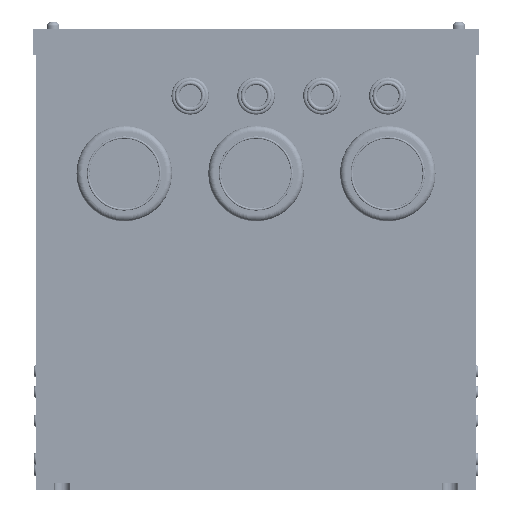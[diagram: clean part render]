
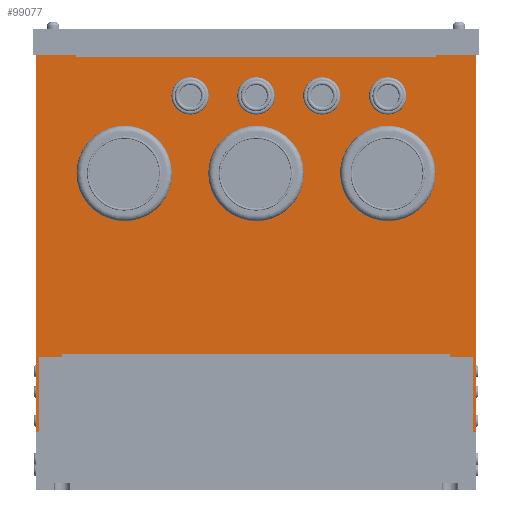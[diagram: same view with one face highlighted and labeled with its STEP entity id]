
A CAD part, front view. The second image highlights one B-rep face of the part: STEP entity #99077.
In plain terms, the highlighted planar face has unit normal (0, -1, 0).
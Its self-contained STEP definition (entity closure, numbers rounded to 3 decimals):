
#23610=DIRECTION('',(-1.,0.,0.));
#23611=VECTOR('',#23610,341.);
#23612=CARTESIAN_POINT('',(343.,2.,261.7));
#23613=LINE('',#23612,#23611);
#23714=DIRECTION('',(0.,0.,-1.));
#23715=VECTOR('',#23714,2.3);
#23716=CARTESIAN_POINT('',(22.5,2.,16.3));
#23717=LINE('',#23716,#23715);
#23742=CARTESIAN_POINT('',(274.5,2.,216.3));
#23743=DIRECTION('',(0.,1.,0.));
#23744=DIRECTION('',(-1.,0.,0.));
#23745=AXIS2_PLACEMENT_3D('',#23742,#23743,#23744);
#23747=CARTESIAN_POINT('',(274.5,2.,216.3));
#23748=DIRECTION('',(0.,1.,0.));
#23749=DIRECTION('',(1.,0.,0.));
#23750=AXIS2_PLACEMENT_3D('',#23747,#23748,#23749);
#23752=CARTESIAN_POINT('',(223.5,2.,216.3));
#23753=DIRECTION('',(0.,1.,0.));
#23754=DIRECTION('',(-1.,0.,0.));
#23755=AXIS2_PLACEMENT_3D('',#23752,#23753,#23754);
#23757=CARTESIAN_POINT('',(223.5,2.,216.3));
#23758=DIRECTION('',(0.,1.,0.));
#23759=DIRECTION('',(1.,0.,0.));
#23760=AXIS2_PLACEMENT_3D('',#23757,#23758,#23759);
#23762=CARTESIAN_POINT('',(172.5,2.,216.3));
#23763=DIRECTION('',(0.,1.,0.));
#23764=DIRECTION('',(-1.,0.,0.));
#23765=AXIS2_PLACEMENT_3D('',#23762,#23763,#23764);
#23767=CARTESIAN_POINT('',(172.5,2.,216.3));
#23768=DIRECTION('',(0.,1.,0.));
#23769=DIRECTION('',(1.,0.,0.));
#23770=AXIS2_PLACEMENT_3D('',#23767,#23768,#23769);
#23772=CARTESIAN_POINT('',(121.5,2.,216.3));
#23773=DIRECTION('',(0.,1.,0.));
#23774=DIRECTION('',(-1.,0.,0.));
#23775=AXIS2_PLACEMENT_3D('',#23772,#23773,#23774);
#23777=CARTESIAN_POINT('',(121.5,2.,216.3));
#23778=DIRECTION('',(0.,1.,0.));
#23779=DIRECTION('',(1.,0.,0.));
#23780=AXIS2_PLACEMENT_3D('',#23777,#23778,#23779);
#23782=CARTESIAN_POINT('',(274.5,2.,156.3));
#23783=DIRECTION('',(0.,-1.,0.));
#23784=DIRECTION('',(1.,0.,0.));
#23785=AXIS2_PLACEMENT_3D('',#23782,#23783,#23784);
#23787=CARTESIAN_POINT('',(274.5,2.,156.3));
#23788=DIRECTION('',(0.,-1.,0.));
#23789=DIRECTION('',(-1.,0.,0.));
#23790=AXIS2_PLACEMENT_3D('',#23787,#23788,#23789);
#23792=CARTESIAN_POINT('',(172.5,2.,156.3));
#23793=DIRECTION('',(0.,-1.,0.));
#23794=DIRECTION('',(1.,0.,0.));
#23795=AXIS2_PLACEMENT_3D('',#23792,#23793,#23794);
#23797=CARTESIAN_POINT('',(172.5,2.,156.3));
#23798=DIRECTION('',(0.,-1.,0.));
#23799=DIRECTION('',(-1.,0.,0.));
#23800=AXIS2_PLACEMENT_3D('',#23797,#23798,#23799);
#23802=CARTESIAN_POINT('',(70.5,2.,156.3));
#23803=DIRECTION('',(0.,-1.,0.));
#23804=DIRECTION('',(1.,0.,0.));
#23805=AXIS2_PLACEMENT_3D('',#23802,#23803,#23804);
#23807=CARTESIAN_POINT('',(70.5,2.,156.3));
#23808=DIRECTION('',(0.,-1.,0.));
#23809=DIRECTION('',(-1.,0.,0.));
#23810=AXIS2_PLACEMENT_3D('',#23807,#23808,#23809);
#23812=DIRECTION('',(0.,0.,-1.));
#23813=VECTOR('',#23812,2.3);
#23814=CARTESIAN_POINT('',(322.5,2.,16.3));
#23815=LINE('',#23814,#23813);
#23816=DIRECTION('',(1.,0.,0.));
#23817=VECTOR('',#23816,300.);
#23818=CARTESIAN_POINT('',(22.5,2.,16.3));
#23819=LINE('',#23818,#23817);
#23820=DIRECTION('',(0.,0.,-1.));
#23821=VECTOR('',#23820,57.7);
#23822=CARTESIAN_POINT('',(4.8,2.,14.));
#23823=LINE('',#23822,#23821);
#23824=DIRECTION('',(1.,0.,0.));
#23825=VECTOR('',#23824,2.3);
#23826=CARTESIAN_POINT('',(2.5,2.,-43.7));
#23827=LINE('',#23826,#23825);
#23828=DIRECTION('',(1.,0.,0.));
#23829=VECTOR('',#23828,0.5);
#23830=CARTESIAN_POINT('',(2.,2.,16.3));
#23831=LINE('',#23830,#23829);
#23832=DIRECTION('',(0.,0.,1.));
#23833=VECTOR('',#23832,245.4);
#23834=CARTESIAN_POINT('',(2.,2.,16.3));
#23835=LINE('',#23834,#23833);
#23836=DIRECTION('',(1.,0.,0.));
#23837=VECTOR('',#23836,0.5);
#23838=CARTESIAN_POINT('',(342.5,2.,16.3));
#23839=LINE('',#23838,#23837);
#23840=DIRECTION('',(0.,0.,-1.));
#23841=VECTOR('',#23840,60.);
#23842=CARTESIAN_POINT('',(342.5,2.,16.3));
#23843=LINE('',#23842,#23841);
#23844=DIRECTION('',(-1.,0.,0.));
#23845=VECTOR('',#23844,2.3);
#23846=CARTESIAN_POINT('',(342.5,2.,-43.7));
#23847=LINE('',#23846,#23845);
#23848=DIRECTION('',(0.,0.,-1.));
#23849=VECTOR('',#23848,57.7);
#23850=CARTESIAN_POINT('',(340.2,2.,14.));
#23851=LINE('',#23850,#23849);
#46678=DIRECTION('',(1.,0.,0.));
#46679=VECTOR('',#46678,17.7);
#46680=CARTESIAN_POINT('',(4.8,2.,14.));
#46681=LINE('',#46680,#46679);
#46694=DIRECTION('',(1.,0.,0.));
#46695=VECTOR('',#46694,17.7);
#46696=CARTESIAN_POINT('',(322.5,2.,14.));
#46697=LINE('',#46696,#46695);
#47726=DIRECTION('',(0.,0.,-1.));
#47727=VECTOR('',#47726,60.);
#47728=CARTESIAN_POINT('',(2.5,2.,16.3));
#47729=LINE('',#47728,#47727);
#49318=DIRECTION('',(0.,0.,1.));
#49319=VECTOR('',#49318,245.4);
#49320=CARTESIAN_POINT('',(343.,2.,16.3));
#49321=LINE('',#49320,#49319);
#50110=CARTESIAN_POINT('',(4.8,2.,14.));
#50111=CARTESIAN_POINT('',(22.5,2.,14.));
#50112=VERTEX_POINT('',#50110);
#50113=VERTEX_POINT('',#50111);
#50114=CARTESIAN_POINT('',(322.5,2.,14.));
#50115=CARTESIAN_POINT('',(340.2,2.,14.));
#50116=VERTEX_POINT('',#50114);
#50117=VERTEX_POINT('',#50115);
#50126=CARTESIAN_POINT('',(342.5,2.,-43.7));
#50127=VERTEX_POINT('',#50126);
#50128=CARTESIAN_POINT('',(2.5,2.,-43.7));
#50129=VERTEX_POINT('',#50128);
#50648=CARTESIAN_POINT('',(4.8,2.,-43.7));
#50649=VERTEX_POINT('',#50648);
#50681=CARTESIAN_POINT('',(340.2,2.,-43.7));
#50683=VERTEX_POINT('',#50681);
#50902=CARTESIAN_POINT('',(2.,2.,261.7));
#50904=VERTEX_POINT('',#50902);
#50906=CARTESIAN_POINT('',(343.,2.,261.7));
#50907=VERTEX_POINT('',#50906);
#50910=CARTESIAN_POINT('',(2.,2.,16.3));
#50911=VERTEX_POINT('',#50910);
#50912=CARTESIAN_POINT('',(343.,2.,16.3));
#50913=VERTEX_POINT('',#50912);
#50922=CARTESIAN_POINT('',(102.,2.,156.3));
#50923=CARTESIAN_POINT('',(39.,2.,156.3));
#50924=VERTEX_POINT('',#50922);
#50925=VERTEX_POINT('',#50923);
#50926=CARTESIAN_POINT('',(204.,2.,156.3));
#50927=CARTESIAN_POINT('',(141.,2.,156.3));
#50928=VERTEX_POINT('',#50926);
#50929=VERTEX_POINT('',#50927);
#50930=CARTESIAN_POINT('',(306.,2.,156.3));
#50931=CARTESIAN_POINT('',(243.,2.,156.3));
#50932=VERTEX_POINT('',#50930);
#50933=VERTEX_POINT('',#50931);
#50946=CARTESIAN_POINT('',(111.4,2.,216.3));
#50947=CARTESIAN_POINT('',(131.6,2.,216.3));
#50948=VERTEX_POINT('',#50946);
#50949=VERTEX_POINT('',#50947);
#50950=CARTESIAN_POINT('',(162.4,2.,216.3));
#50951=CARTESIAN_POINT('',(182.6,2.,216.3));
#50952=VERTEX_POINT('',#50950);
#50953=VERTEX_POINT('',#50951);
#50954=CARTESIAN_POINT('',(213.4,2.,216.3));
#50955=CARTESIAN_POINT('',(233.6,2.,216.3));
#50956=VERTEX_POINT('',#50954);
#50957=VERTEX_POINT('',#50955);
#50958=CARTESIAN_POINT('',(264.4,2.,216.3));
#50959=CARTESIAN_POINT('',(284.6,2.,216.3));
#50960=VERTEX_POINT('',#50958);
#50961=VERTEX_POINT('',#50959);
#51348=CARTESIAN_POINT('',(22.5,2.,16.3));
#51350=VERTEX_POINT('',#51348);
#51361=CARTESIAN_POINT('',(322.5,2.,16.3));
#51363=VERTEX_POINT('',#51361);
#51364=CARTESIAN_POINT('',(2.5,2.,16.3));
#51366=VERTEX_POINT('',#51364);
#51368=CARTESIAN_POINT('',(342.5,2.,16.3));
#51370=VERTEX_POINT('',#51368);
#99002=CARTESIAN_POINT('',(2.5,2.,16.3));
#99003=DIRECTION('',(0.,-1.,0.));
#99004=DIRECTION('',(1.,0.,0.));
#99005=AXIS2_PLACEMENT_3D('',#99002,#99003,#99004);
#99006=PLANE('',#99005);
#99008=ORIENTED_EDGE('',*,*,#99007,.F.);
#99009=ORIENTED_EDGE('',*,*,#98950,.F.);
#99010=ORIENTED_EDGE('',*,*,#98924,.T.);
#99012=ORIENTED_EDGE('',*,*,#99011,.F.);
#99014=ORIENTED_EDGE('',*,*,#99013,.T.);
#99016=ORIENTED_EDGE('',*,*,#99015,.F.);
#99018=ORIENTED_EDGE('',*,*,#99017,.F.);
#99019=ORIENTED_EDGE('',*,*,#98982,.F.);
#99020=ORIENTED_EDGE('',*,*,#98851,.T.);
#99021=ORIENTED_EDGE('',*,*,#98791,.F.);
#99023=ORIENTED_EDGE('',*,*,#99022,.F.);
#99024=ORIENTED_EDGE('',*,*,#98994,.F.);
#99026=ORIENTED_EDGE('',*,*,#99025,.T.);
#99028=ORIENTED_EDGE('',*,*,#99027,.T.);
#99030=ORIENTED_EDGE('',*,*,#99029,.F.);
#99032=ORIENTED_EDGE('',*,*,#99031,.F.);
#99033=EDGE_LOOP('',(#99008,#99009,#99010,#99012,#99014,#99016,#99018,#99019,
#99020,#99021,#99023,#99024,#99026,#99028,#99030,#99032));
#99034=FACE_OUTER_BOUND('',#99033,.F.);
#99036=ORIENTED_EDGE('',*,*,#99035,.F.);
#99038=ORIENTED_EDGE('',*,*,#99037,.F.);
#99039=EDGE_LOOP('',(#99036,#99038));
#99040=FACE_BOUND('',#99039,.F.);
#99042=ORIENTED_EDGE('',*,*,#99041,.F.);
#99044=ORIENTED_EDGE('',*,*,#99043,.F.);
#99045=EDGE_LOOP('',(#99042,#99044));
#99046=FACE_BOUND('',#99045,.F.);
#99048=ORIENTED_EDGE('',*,*,#99047,.F.);
#99050=ORIENTED_EDGE('',*,*,#99049,.F.);
#99051=EDGE_LOOP('',(#99048,#99050));
#99052=FACE_BOUND('',#99051,.F.);
#99054=ORIENTED_EDGE('',*,*,#99053,.T.);
#99056=ORIENTED_EDGE('',*,*,#99055,.T.);
#99057=EDGE_LOOP('',(#99054,#99056));
#99058=FACE_BOUND('',#99057,.F.);
#99060=ORIENTED_EDGE('',*,*,#99059,.T.);
#99062=ORIENTED_EDGE('',*,*,#99061,.T.);
#99063=EDGE_LOOP('',(#99060,#99062));
#99064=FACE_BOUND('',#99063,.F.);
#99066=ORIENTED_EDGE('',*,*,#99065,.T.);
#99068=ORIENTED_EDGE('',*,*,#99067,.T.);
#99069=EDGE_LOOP('',(#99066,#99068));
#99070=FACE_BOUND('',#99069,.F.);
#99072=ORIENTED_EDGE('',*,*,#99071,.F.);
#99074=ORIENTED_EDGE('',*,*,#99073,.F.);
#99075=EDGE_LOOP('',(#99072,#99074));
#99076=FACE_BOUND('',#99075,.F.);
#99077=ADVANCED_FACE('',(#99034,#99040,#99046,#99052,#99058,#99064,#99070,
#99076),#99006,.T.);
#23746=CIRCLE('',#23745,10.1);
#23751=CIRCLE('',#23750,10.1);
#23756=CIRCLE('',#23755,10.1);
#23761=CIRCLE('',#23760,10.1);
#23766=CIRCLE('',#23765,10.1);
#23771=CIRCLE('',#23770,10.1);
#23776=CIRCLE('',#23775,10.1);
#23781=CIRCLE('',#23780,10.1);
#23786=CIRCLE('',#23785,31.5);
#23791=CIRCLE('',#23790,31.5);
#23796=CIRCLE('',#23795,31.5);
#23801=CIRCLE('',#23800,31.5);
#23806=CIRCLE('',#23805,31.5);
#23811=CIRCLE('',#23810,31.5);
#98791=EDGE_CURVE('',#50907,#50904,#23613,.T.);
#98851=EDGE_CURVE('',#50911,#50904,#23835,.T.);
#98924=EDGE_CURVE('',#51350,#50113,#23717,.T.);
#98950=EDGE_CURVE('',#51350,#51363,#23819,.T.);
#98982=EDGE_CURVE('',#50911,#51366,#23831,.T.);
#98994=EDGE_CURVE('',#51370,#50913,#23839,.T.);
#99007=EDGE_CURVE('',#51363,#50116,#23815,.T.);
#99011=EDGE_CURVE('',#50112,#50113,#46681,.T.);
#99013=EDGE_CURVE('',#50112,#50649,#23823,.T.);
#99015=EDGE_CURVE('',#50129,#50649,#23827,.T.);
#99017=EDGE_CURVE('',#51366,#50129,#47729,.T.);
#99022=EDGE_CURVE('',#50913,#50907,#49321,.T.);
#99025=EDGE_CURVE('',#51370,#50127,#23843,.T.);
#99027=EDGE_CURVE('',#50127,#50683,#23847,.T.);
#99029=EDGE_CURVE('',#50117,#50683,#23851,.T.);
#99031=EDGE_CURVE('',#50116,#50117,#46697,.T.);
#99035=EDGE_CURVE('',#50956,#50957,#23756,.T.);
#99037=EDGE_CURVE('',#50957,#50956,#23761,.T.);
#99041=EDGE_CURVE('',#50952,#50953,#23766,.T.);
#99043=EDGE_CURVE('',#50953,#50952,#23771,.T.);
#99047=EDGE_CURVE('',#50948,#50949,#23776,.T.);
#99049=EDGE_CURVE('',#50949,#50948,#23781,.T.);
#99053=EDGE_CURVE('',#50932,#50933,#23786,.T.);
#99055=EDGE_CURVE('',#50933,#50932,#23791,.T.);
#99059=EDGE_CURVE('',#50928,#50929,#23796,.T.);
#99061=EDGE_CURVE('',#50929,#50928,#23801,.T.);
#99065=EDGE_CURVE('',#50924,#50925,#23806,.T.);
#99067=EDGE_CURVE('',#50925,#50924,#23811,.T.);
#99071=EDGE_CURVE('',#50960,#50961,#23746,.T.);
#99073=EDGE_CURVE('',#50961,#50960,#23751,.T.);
